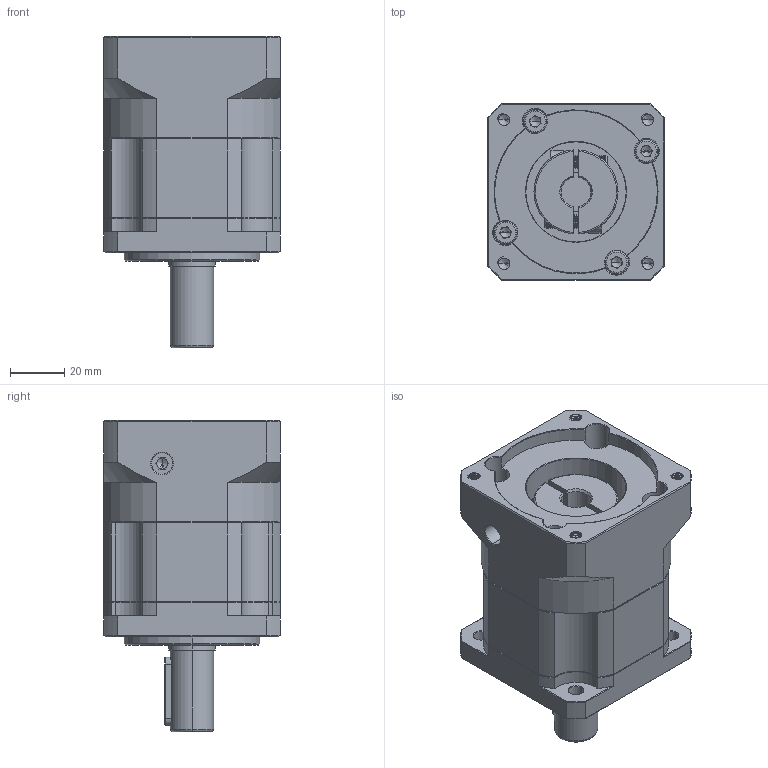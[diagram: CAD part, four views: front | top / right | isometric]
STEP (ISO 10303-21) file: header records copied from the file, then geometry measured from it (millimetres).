
FILE_DESCRIPTION (( 'STEP AP214' ), '1' );
FILE_NAME ('ZB60-D16-L1-11-60-75-M5.STEP', '2022-04-17T07:35:22', ( '' ), ( 'Microsoft' ), 'SwSTEP 2.0', 'SolidWorks 2016', '' );
FILE_SCHEMA (( 'AUTOMOTIVE_DESIGN' ));
Length unit declared in the file: millimetre
Products named in the file (1): ZB60-D16-L1-11-60-75-M5
Bounding box: 65 x 65 x 115 mm (x, y, z)
Volume: 266861.7 mm3; surface area: 54714.1 mm2
Topology: 6 solids, 6 shells, 1894 faces, 5036 edges, 3221 vertices
Faces by surface type: plane 879, cylinder 396, bspline 299, cone 286, torus 34
Entity records: 102153 total; most frequent: CARTESIAN_POINT 36658, ORIENTED_EDGE 10012, DIRECTION 8203, EDGE_CURVE 5006, VERTEX_POINT 3221, VECTOR 3039, LINE 3039, AXIS2_PLACEMENT_3D 2582
